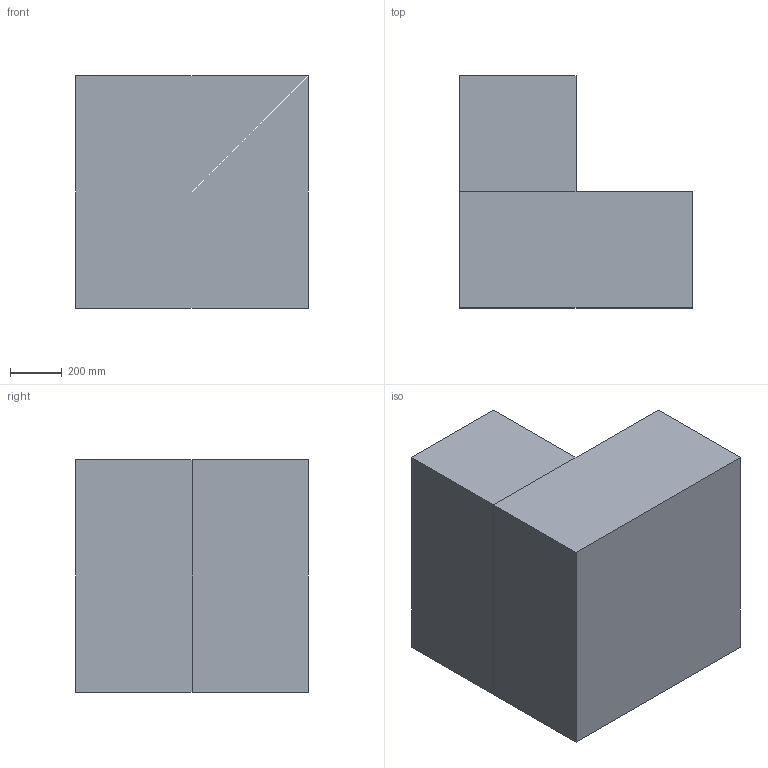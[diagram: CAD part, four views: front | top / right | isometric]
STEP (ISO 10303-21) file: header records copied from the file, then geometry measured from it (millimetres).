
FILE_DESCRIPTION (( 'STEP AP203' ), '1' );
FILE_NAME ('Type A.STEP', '2019-01-15T13:54:14', ( '' ), ( '' ), 'SwSTEP 2.0', 'SolidWorks 2019', '' );
FILE_SCHEMA (( 'CONFIG_CONTROL_DESIGN' ));
Length unit declared in the file: millimetre
Products named in the file (3): Extrabox Type B_Domy˜lna; Extrabox Type D_Domy˜lna; Type A
Assembly tree (2 placements, depth 2):
  Type A
    Extrabox Type D_Domy˜lna
    Extrabox Type B_Domy˜lna
Bounding box: 900 x 900 x 900 mm (x, y, z)
Volume: 546750000 mm3; surface area: 5265000 mm2
Topology: 2 solids, 2 shells, 12 faces, 24 edges, 16 vertices
Faces by surface type: plane 12
Entity records: 613 total; most frequent: DIRECTION 58, CARTESIAN_POINT 57, ORIENTED_EDGE 48, PERSON_AND_ORGANIZATION 26, VECTOR 24, EDGE_CURVE 24, LINE 24, DATE_AND_TIME 19
